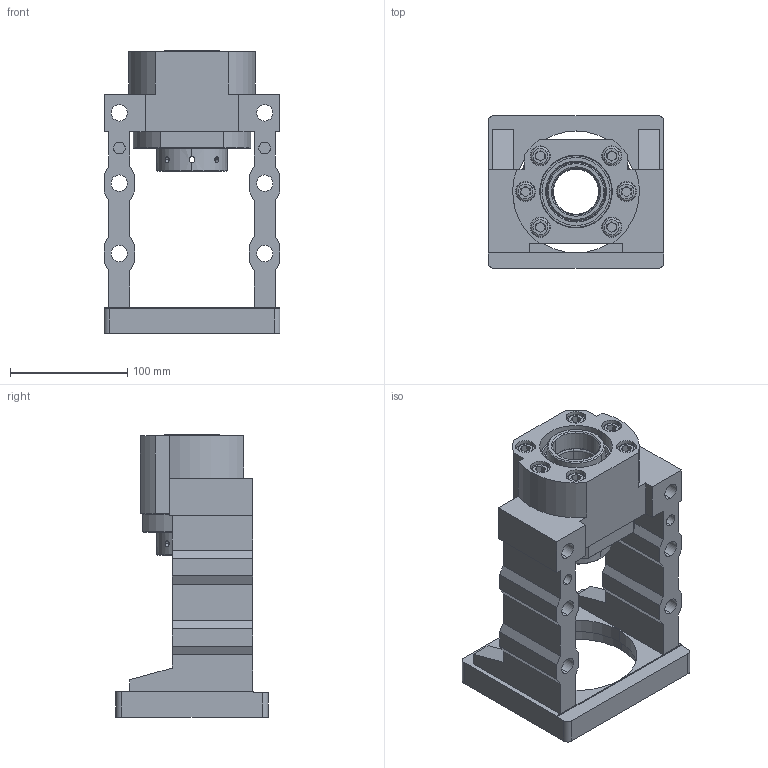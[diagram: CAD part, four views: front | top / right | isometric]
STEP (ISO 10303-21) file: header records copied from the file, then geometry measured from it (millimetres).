
FILE_DESCRIPTION (( 'STEP AP203' ), '1' );
FILE_NAME ('MBCK40-G²Õ¦X¥ó.STEP', '2022-10-20T05:59:48', ( '' ), ( '' ), 'SwSTEP 2.0', 'SolidWorks 2018', '' );
FILE_SCHEMA (( 'CONFIG_CONTROL_DESIGN' ));
Length unit declared in the file: millimetre
Products named in the file (1): MBCK40-G組合件
Bounding box: 150 x 130 x 241 mm (x, y, z)
Surface area: 216320.9 mm2 (no closed solid volume)
Topology: 0 solids, 21 shells, 342 faces, 967 edges, 639 vertices
Faces by surface type: plane 130, cylinder 120, cone 64, torus 18, bspline 10
Entity records: 27695 total; most frequent: CARTESIAN_POINT 18833, DIRECTION 1870, ORIENTED_EDGE 1682, EDGE_CURVE 959, AXIS2_PLACEMENT_3D 704, VERTEX_POINT 639, LINE 462, VECTOR 462
